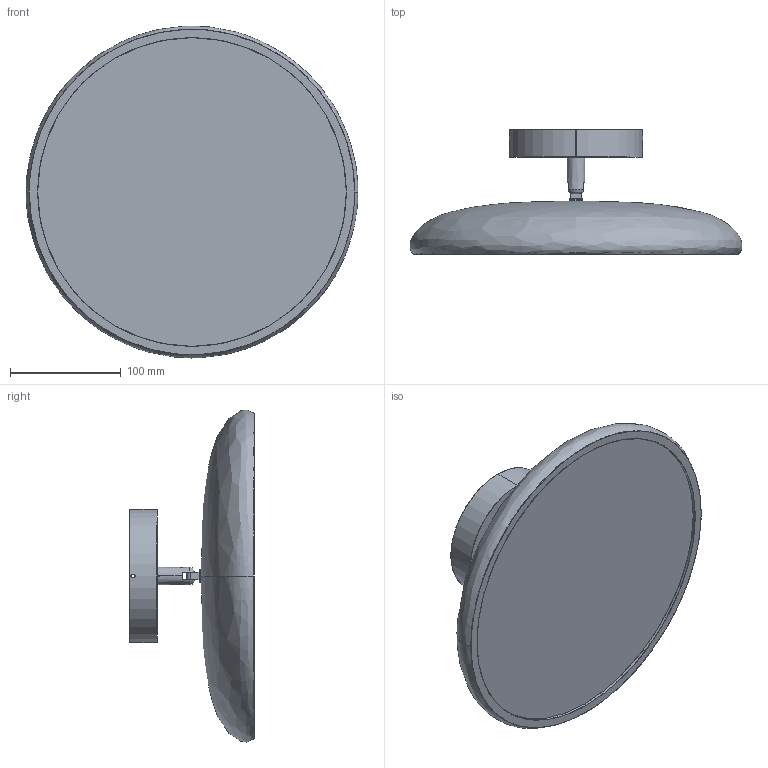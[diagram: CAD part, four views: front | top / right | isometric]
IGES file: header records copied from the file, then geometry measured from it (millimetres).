
Start section: SolidWorks IGES file using analytic representation for surfaces
Global section: file name: F:\燠隴矨\3D\2025-6\Drift Adjustable Ceiling Lamp-D30cm.IGS,15; native system: HSolidWorks 2022; preprocessor: SolidWorks 2022; author: MyPC; date: 250610.171244; units: millimetre
Bounding box: 299.14 x 112.39 x 299.15 mm (x, y, z)
Surface area: 367277.7 mm2 (no closed solid volume)
Topology: 0 solids, 0 shells, 56 faces, 1316 edges, 1312 vertices
Faces by surface type: bspline 32, revolution 24
